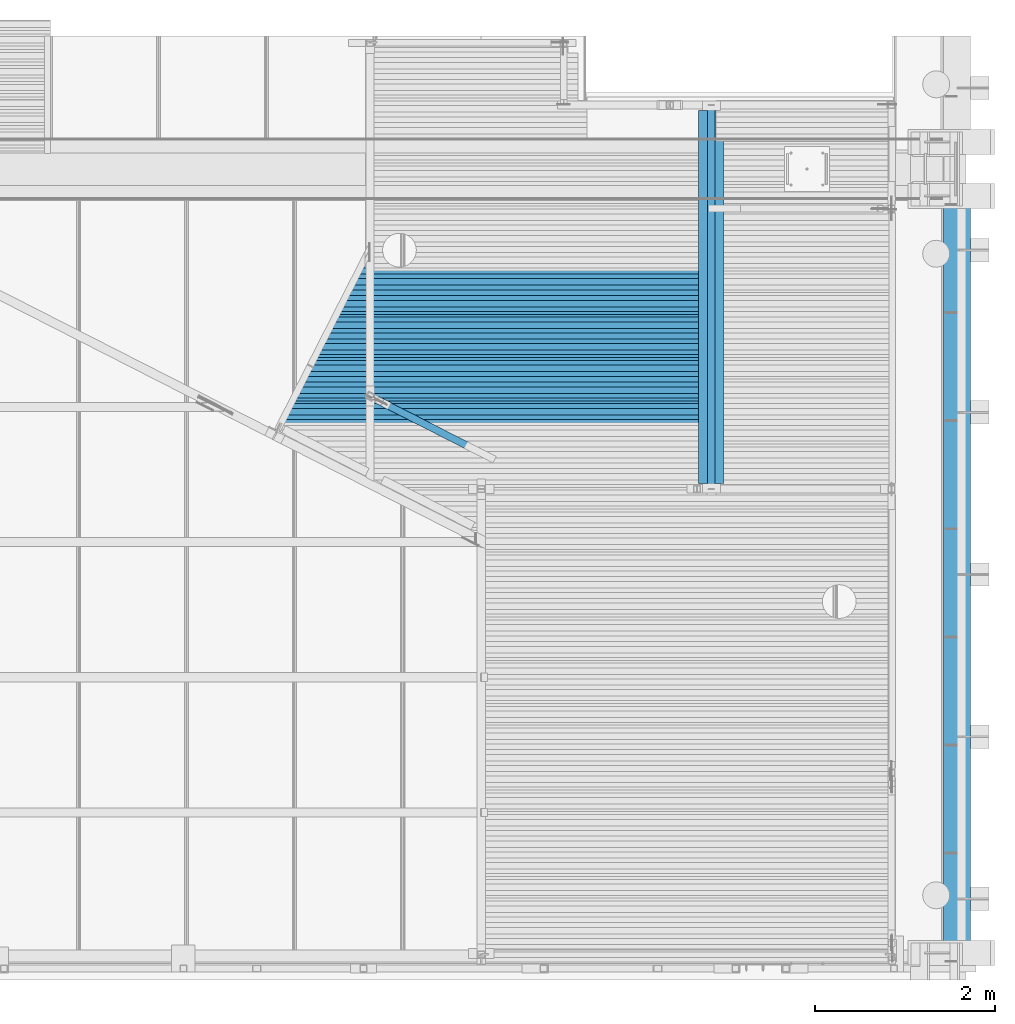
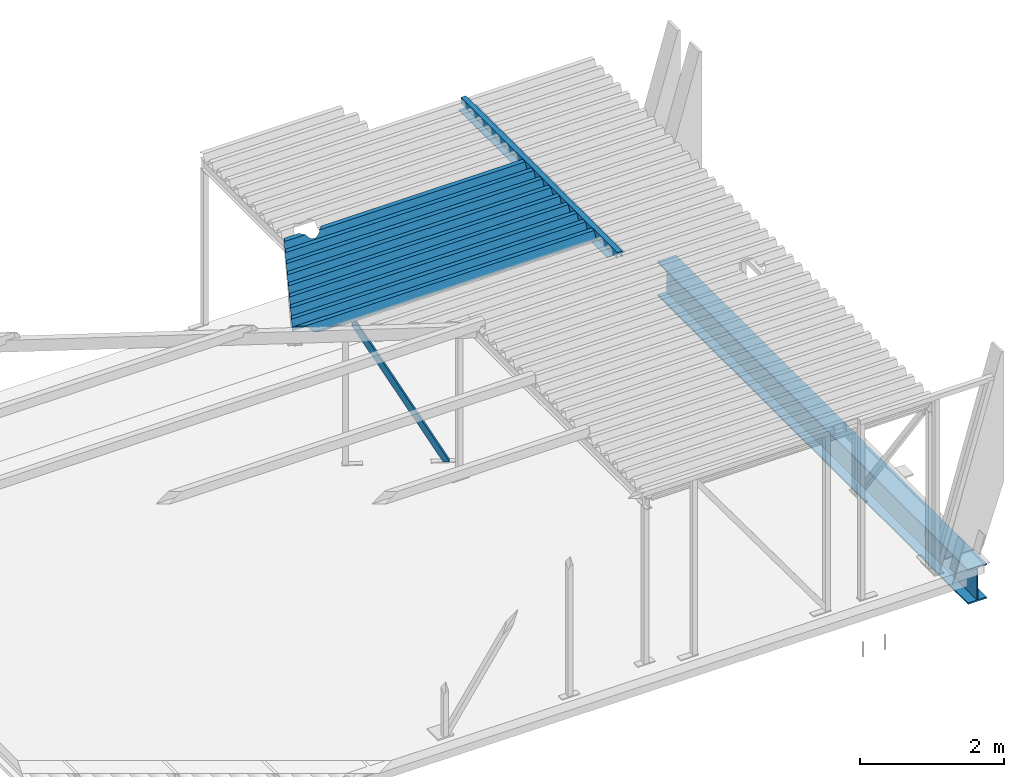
# One storey, part 10 of 30: 6 beams, 1 member.
"""IFC2X3 building model written with IfcOpenShell, lengths in millimetres."""

from ifc_helpers import new_model, entity, si_unit, converted_unit, derived_unit, direction, frame, origin_with_axes, place, context, subcontext, project, spatial, faceted_brep, material, type_object, element, save


model = new_model("IFC2X3")

# Units and contexts
model_context = context("Model", 3, precision=0.01, world=frame((0.0, 4.29681676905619e-09, 0.0)), true_north=direction((4.01073788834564e-13, 1.0)))
plan_context = context("Plan", 3, precision=0.01, world=frame((0.0, 4.29681676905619e-09, 0.0)), true_north=direction((4.01073788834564e-13, 1.0)))
body_context = subcontext(model_context, "Body", "Model", "MODEL_VIEW")
ifc_project = project(units=[converted_unit("PLANEANGLEUNIT", "DEGREE", entity("IfcPositiveLengthMeasure", 0.0174532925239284), si_unit("PLANEANGLEUNIT", "RADIAN"), dimensions=[0, 0, 0, 0, 0, 0, 0]), si_unit("AREAUNIT", "SQUARE_METRE"), si_unit("LENGTHUNIT", "METRE", prefix="MILLI"), si_unit("MASSUNIT", "GRAM", prefix="KILO"), si_unit("POWERUNIT", "WATT"), si_unit("PRESSUREUNIT", "PASCAL"), si_unit("FORCEUNIT", "NEWTON", prefix="KILO"), si_unit("ELECTRICVOLTAGEUNIT", "VOLT"), si_unit("ELECTRICCURRENTUNIT", "AMPERE"), si_unit("THERMODYNAMICTEMPERATUREUNIT", "DEGREE_CELSIUS"), si_unit("TIMEUNIT", "SECOND"), si_unit("VOLUMEUNIT", "CUBIC_METRE"), derived_unit("LINEARVELOCITYUNIT", [(si_unit("LENGTHUNIT", "METRE"), 1), (si_unit("TIMEUNIT", "SECOND"), -1)]), derived_unit("VOLUMETRICFLOWRATEUNIT", [(si_unit("VOLUMEUNIT", "CUBIC_METRE"), 1), (si_unit("TIMEUNIT", "SECOND"), -1)]), derived_unit("THERMALTRANSMITTANCEUNIT", [(si_unit("POWERUNIT", "WATT"), 1), (si_unit("THERMODYNAMICTEMPERATUREUNIT", "KELVIN"), -1), (si_unit("AREAUNIT", "SQUARE_METRE"), -1)]), derived_unit("SOUNDPRESSUREUNIT", [(si_unit("PRESSUREUNIT", "PASCAL"), 1)])], contexts=[model_context, plan_context])

# Site, building, storey
site_placement = place(None, frame((0.0, -4.29681676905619e-09, 0.0), z_axis=(0.0, 0.0, 1.0), x_axis=(1.0, 0.0, 0.0)))
site = spatial("IfcSite", under=ifc_project, at=site_placement, Name="Gardermoen", CompositionType="ELEMENT")
building_placement = place(site_placement, frame((0.0, 4.29681676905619e-09, 0.0), z_axis=(0.0, 0.0, 1.0), x_axis=(1.0, 0.0, 0.0)))
building = spatial("IfcBuilding", under=site, at=building_placement, Name="TI", CompositionType="ELEMENT")
storey_placement = place(building_placement, origin_with_axes())
storey = spatial("IfcBuildingStorey", under=building, at=storey_placement, Name="F", CompositionType="ELEMENT", Elevation=0.0)

# Beams
ifc_material_1 = material(Name="STEEL/S355")
beam_type_1 = type_object("IfcBeamType", Name="HEA600", PredefinedType="NOTDEFINED")
beam_1_placement = place(storey_placement, frame((612014.999766, 697819.995625, 210385.0), z_axis=(0.0, 0.0, 1.0), x_axis=(0.0, -1.0, 0.0)))
element("IfcBeam", 1, at=beam_1_placement, inside=storey, type_object=beam_type_1, material=ifc_material_1, Name="STÅLBJELKE", ObjectType="HEA600", context=body_context, shape_type="Brep", body=[
    faceted_brep([(0.0, 150.0, -295.0), (0.0, 150.0, -270.0), (8640.00934447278, 150.0, -270.0), (8640.00934447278, 150.0, -295.0), (0.0, 6.5, -270.0), (8640.00934447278, 6.5, -270.0), (0.0, 6.5, 270.0), (8640.00934447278, 6.5, 270.0), (0.0, 150.0, 270.0), (8640.00934447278, 150.0, 270.0), (0.0, 150.0, 295.0), (8640.00934447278, 150.0, 295.0), (0.0, -150.0, 295.0), (8640.00934447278, -150.0, 295.0), (0.0, -150.0, 270.0), (8640.00934447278, -150.0, 270.0), (0.0, -6.5, 270.0), (8640.00934447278, -6.5, 270.0), (0.0, -6.5, -270.0), (8640.00934447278, -6.5, -270.0), (0.0, -150.0, -270.0), (8640.00934447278, -150.0, -270.0), (0.0, -150.0, -295.0), (8640.00934447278, -150.0, -295.0)], [[[0, 1, 2, 3]], [[1, 4, 5, 2]], [[4, 6, 7, 5]], [[6, 8, 9, 7]], [[8, 10, 11, 9]], [[10, 12, 13, 11]], [[12, 14, 15, 13]], [[14, 16, 17, 15]], [[16, 18, 19, 17]], [[18, 20, 21, 19]], [[20, 22, 23, 21]], [[22, 0, 3, 23]], [[5, 7, 9, 11, 13, 15, 17, 19, 21, 23, 3, 2]], [[22, 20, 18, 16, 14, 12, 10, 8, 6, 4, 1, 0]]]),
])
ifc_material_2 = material(Name="STEEL/S355J2H")
beam_type_2 = type_object("IfcBeamType", Name="PLANNJA111", PredefinedType="NOTDEFINED")
beam_2_placement = place(storey_placement, frame((605090.830439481, 696747.497611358, 213755.499847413), z_axis=(0.0, 0.0, 1.0), x_axis=(1.0, 0.0, 0.0)))
element("IfcBeam", 2, at=beam_2_placement, inside=storey, type_object=beam_type_2, material=ifc_material_2, Name="STÅLBJELKE", ObjectType="PLANNJA111", context=body_context, shape_type="Brep", body=[
    faceted_brep([(550.565483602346, 359.999999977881, -54.7499999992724), (549.826480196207, 352.496756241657, -54.7499999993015), (549.826480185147, 352.496756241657, -55.7499999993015), (550.565483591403, 359.999999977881, -55.7499999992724), (553.429248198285, 315.917321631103, -28.8564288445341), (553.429248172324, 315.917321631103, -31.2000299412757), (552.288451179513, 327.499999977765, -55.7499999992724), (552.226016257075, 328.133911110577, -54.7499999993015), (564.099084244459, 280.74361571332, 45.6957085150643), (564.099084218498, 280.74361571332, 43.3521074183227), (581.42595129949, 248.327344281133, 55.7500000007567), (581.425951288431, 248.327344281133, 54.7500000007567), (566.973433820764, 275.366088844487, 54.7500000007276), (566.634601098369, 275.999999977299, 55.7500000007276), (604.743988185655, 219.914246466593, 55.7500000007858), (604.743988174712, 219.914246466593, 54.7500000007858), (633.157095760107, 196.596221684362, 40.0573829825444), (633.157095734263, 196.596221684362, 37.7137818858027), (623.363138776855, 204.633911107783, 54.7500000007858), (624.135562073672, 203.999999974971, 55.7500000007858), (665.573374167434, 179.269368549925, 3.33239478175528), (665.573374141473, 179.269368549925, 0.988793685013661), (700.74708438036, 168.599548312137, -19.2827344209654), (700.747084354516, 168.599548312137, -21.6263355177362), (737.326520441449, 164.996796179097, -26.9189178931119), (737.326520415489, 164.996796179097, -29.2625189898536), (773.905955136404, 168.59956389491, -19.282701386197), (773.90595511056, 168.59956389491, -21.6263024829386), (809.079661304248, 179.269399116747, 3.33245958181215), (809.079661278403, 179.269399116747, 0.988858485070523), (841.495933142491, 196.596266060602, 40.0574770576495), (841.495933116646, 196.596266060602, 37.7138759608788), (869.909031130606, 219.914302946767, 55.750000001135), (869.909031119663, 219.914302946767, 54.750000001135), (851.289827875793, 204.633911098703, 54.7500000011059), (850.517405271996, 203.99999996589, 55.7500000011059), (893.227055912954, 248.327410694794, 55.750000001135), (893.227055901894, 248.327410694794, 54.750000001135), (910.553908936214, 280.743689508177, 45.695552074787), (910.553908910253, 280.743689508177, 43.3519509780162), (907.679523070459, 275.36608883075, 54.7500000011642), (908.018355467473, 275.999999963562, 55.7500000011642), (921.223728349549, 315.91739997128, -28.8565949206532), (921.223728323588, 315.91739997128, -31.2001960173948), (924.826480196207, 352.496836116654, -54.7499999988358), (924.826480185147, 352.496836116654, -55.7499999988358), (922.364512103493, 327.49999996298, -55.7499999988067), (922.426946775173, 328.133911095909, -54.7499999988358), (924.087481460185, 359.99999996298, -54.7499999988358), (924.087481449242, 359.99999996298, -55.7499999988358), (4148.81171858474, 87.4999998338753, -55.7499999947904), (4148.81171858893, 35.3660887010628, 54.7500000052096), (199.554923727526, 35.3660888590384, 54.750000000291), (226.118472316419, 87.4999999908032, -55.7499999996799), (4148.81171858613, -35.3660890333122, 54.7500000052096), (163.515085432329, -35.3660888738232, 54.7500000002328), (4148.81171857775, -87.5000001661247, -55.7499999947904), (136.951534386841, -87.5000000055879, -55.7499999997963), (4148.81171857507, -152.500000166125, -55.7499999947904), (103.832386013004, -152.500000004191, -55.7499999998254), (4148.81171857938, -204.633911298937, 54.7500000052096), (77.268837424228, -204.633911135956, 54.7500000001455), (4148.81171857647, -275.366089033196, 54.7500000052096), (41.2289991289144, -275.366088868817, 54.7500000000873), (4148.81171856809, -327.500000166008, -55.7499999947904), (14.6654480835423, -327.500000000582, -55.7499999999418), (3.72529029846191e-09, -359.999999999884, -55.75), (3.72529029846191e-09, -359.999999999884, -54.75), (-1.73458829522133e-08, -356.282567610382, -54.7499999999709), (-1.73458829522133e-08, -356.282567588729, -55.7499999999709), (4148.81171856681, -360.000000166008, -55.7499999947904), (4148.81171856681, -360.000000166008, -54.7499999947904), (4148.81171856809, -328.133911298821, -54.7499999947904), (14.3424542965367, -328.133911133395, -54.7499999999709), (4148.81171857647, -276.000000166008, 55.7500000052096), (40.9060053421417, -276.00000000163, 55.7500000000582), (4148.81171857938, -204.000000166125, 55.7500000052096), (77.5918312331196, -204.000000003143, 55.7500000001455), (4148.81171857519, -151.866089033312, -54.7499999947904), (104.155379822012, -151.866088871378, -54.7499999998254), (4148.81171857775, -88.1339112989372, -54.7499999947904), (136.628540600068, -88.133911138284, -54.7499999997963), (4148.81171858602, -36.0000001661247, 55.7500000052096), (163.192091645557, -36.0000000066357, 55.7500000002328), (4148.81171858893, 35.9999998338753, 55.7500000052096), (199.877917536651, 35.9999999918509, 55.750000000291), (4148.81171858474, 88.1339109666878, -54.7499999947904), (226.441466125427, 88.1339111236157, -54.7499999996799), (4148.8117185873, 151.866088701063, -54.7499999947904), (258.914626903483, 151.86608885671, -54.7499999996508), (348.404558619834, 327.49999998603, -55.7499999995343), (321.841010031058, 275.366088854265, 54.7500000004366), (285.80117173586, 204.633911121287, 54.7500000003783), (259.237620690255, 152.499999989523, -55.7499999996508), (285.478177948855, 203.999999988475, 55.7500000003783), (322.164003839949, 275.999999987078, 55.7500000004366), (348.727552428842, 328.133911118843, -54.7499999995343), (364.964132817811, 359.999999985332, -54.7499999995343), (364.964132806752, 359.999999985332, -55.7499999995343), (4148.8117185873, 152.499999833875, -55.7499999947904), (4148.81171859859, 275.999999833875, 55.7500000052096), (4148.81171859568, 203.999999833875, 55.7500000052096), (4148.81171859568, 204.633910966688, 54.7500000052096), (4148.81171859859, 275.366088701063, 54.7500000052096), (4148.81171859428, 327.499999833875, -55.7499999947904), (4148.81171859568, 359.999999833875, -55.7499999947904), (4148.81171859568, 359.999999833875, -54.7499999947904), (4148.8117185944, 328.133910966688, -54.7499999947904)], [[[0, 1, 2, 3]], [[4, 5, 6, 2, 1, 7]], [[8, 9, 5, 4]], [[10, 11, 12, 9, 8, 13]], [[14, 15, 11, 10]], [[16, 17, 18, 15, 14, 19]], [[20, 21, 17, 16]], [[22, 23, 21, 20]], [[24, 25, 23, 22]], [[26, 27, 25, 24]], [[28, 29, 27, 26]], [[30, 31, 29, 28]], [[32, 33, 34, 31, 30, 35]], [[36, 37, 33, 32]], [[38, 39, 40, 37, 36, 41]], [[42, 43, 39, 38]], [[44, 45, 46, 43, 42, 47]], [[48, 49, 45, 44]], [[50, 51, 52, 53]], [[51, 54, 55, 52]], [[54, 56, 57, 55]], [[56, 58, 59, 57]], [[58, 60, 61, 59]], [[60, 62, 63, 61]], [[62, 64, 65, 63]], [[66, 67, 68, 69]], [[64, 70, 66, 69, 65]], [[67, 66, 70, 71]], [[67, 71, 72, 73, 68]], [[72, 74, 75, 73]], [[74, 76, 77, 75]], [[76, 78, 79, 77]], [[78, 80, 81, 79]], [[80, 82, 83, 81]], [[82, 84, 85, 83]], [[84, 86, 87, 85]], [[86, 88, 89, 87]], [[90, 91, 92, 93, 53, 52, 55, 57, 59, 61, 63, 65, 69, 68, 73, 75, 77, 79, 81, 83, 85, 87, 89, 94, 95, 96, 97, 98]], [[99, 50, 53, 93]], [[100, 101, 88, 86, 84, 82, 80, 78, 76, 74, 72, 71, 70, 64, 62, 60, 58, 56, 54, 51, 50, 99, 102, 103, 104, 105, 106, 107]], [[38, 41, 100, 107, 47, 42]], [[32, 35, 101, 100, 41, 36]], [[28, 26, 24, 22, 20, 16, 19, 94, 89, 88, 101, 35, 30]], [[10, 13, 95, 94, 19, 14]], [[4, 7, 96, 95, 13, 8]], [[0, 97, 96, 7, 1]], [[98, 97, 0, 3]], [[90, 98, 3, 2, 6]], [[91, 90, 6, 5, 9, 12]], [[92, 91, 12, 11, 15, 18]], [[102, 99, 93, 92, 18, 17, 21, 23, 25, 27, 29, 31, 34]], [[103, 102, 34, 33, 37, 40]], [[104, 103, 40, 39, 43, 46]], [[105, 104, 46, 45, 49]], [[106, 105, 49, 48]], [[107, 106, 48, 44, 47]]]),
])
beam_3_placement = place(storey_placement, frame((604690.830439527, 696267.497611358, 213755.499847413), z_axis=(0.0, 0.0, 1.0), x_axis=(1.0, 0.0, 0.0)))
element("IfcBeam", 3, at=beam_3_placement, inside=storey, type_object=beam_type_2, material=ifc_material_2, Name="STÅLBJELKE", ObjectType="PLANNJA111", context=body_context, shape_type="Brep", body=[
    faceted_brep([(4548.8116240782, 275.999999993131, 55.7500000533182), (4548.81162407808, 203.999999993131, 55.7500000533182), (4548.81162407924, 151.866088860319, -54.7499999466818), (4548.81162407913, 88.133911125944, -54.7499999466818), (4548.81162407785, 35.9999999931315, 55.7500000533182), (4548.81162407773, -36.0000000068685, 55.7500000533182), (4548.81162407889, -88.133911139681, -54.7499999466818), (4548.81162407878, -151.866088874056, -54.7499999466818), (4548.8116240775, -204.000000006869, 55.7500000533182), (4548.81162407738, -276.000000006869, 55.7500000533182), (4548.81162407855, -328.133911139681, -54.7499999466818), (4548.81162407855, -360.000000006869, -54.7499999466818), (4548.81162407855, -360.000000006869, -55.7499999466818), (4548.81162407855, -327.500000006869, -55.7499999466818), (4548.81162407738, -275.366088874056, 54.7500000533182), (4548.8116240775, -204.633911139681, 54.7500000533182), (4548.81162407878, -152.500000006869, -55.7499999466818), (4548.81162407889, -87.5000000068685, -55.7499999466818), (4548.81162407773, -35.366088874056, 54.7500000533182), (4548.81162407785, 35.366088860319, 54.7500000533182), (4548.81162407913, 87.4999999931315, -55.7499999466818), (4548.81162407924, 152.499999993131, -55.7499999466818), (4548.81162407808, 204.633911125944, 54.7500000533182), (4548.8116240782, 275.366088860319, 54.7500000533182), (4548.81162407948, 327.499999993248, -55.7499999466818), (4548.81162407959, 359.999999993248, -55.7499999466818), (4548.81162407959, 359.999999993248, -54.7499999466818), (4548.81162407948, 328.13391112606, -54.7499999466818), (520.391822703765, 359.999999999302, -54.7499999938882), (504.155241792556, 328.133911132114, -54.7499999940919), (477.591692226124, 275.999999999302, 55.750000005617), (440.905865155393, 203.999999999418, 55.7500000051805), (414.342313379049, 151.866088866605, -54.7499999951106), (381.869151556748, 88.1339111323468, -54.749999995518), (355.305601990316, 35.9999999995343, 55.7500000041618), (318.619774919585, -36.0000000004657, 55.7500000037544), (292.056223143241, -88.1339111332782, -54.7499999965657), (259.58306132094, -151.866088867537, -54.7499999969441), (233.019511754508, -204.000000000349, 55.7500000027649), (196.333684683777, -276.000000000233, 55.7500000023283), (169.770132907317, -328.133911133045, -54.7499999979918), (153.533551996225, -360.000000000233, -54.7499999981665), (153.533551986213, -360.000000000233, -55.7499999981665), (170.093126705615, -327.500000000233, -55.7499999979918), (196.656678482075, -275.36608886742, 54.7500000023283), (232.696517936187, -204.633911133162, 54.7500000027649), (259.260067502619, -152.500000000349, -55.7499999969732), (292.379216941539, -87.5000000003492, -55.7499999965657), (318.942768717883, -35.3660888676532, 54.7500000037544), (354.982608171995, 35.3660888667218, 54.7500000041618), (381.546157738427, 87.4999999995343, -55.749999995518), (414.665307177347, 152.499999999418, -55.7499999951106), (441.228858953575, 204.63391113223, 54.7500000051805), (477.268698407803, 275.366088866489, 54.7500000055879), (503.832247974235, 327.499999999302, -55.7499999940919), (520.391822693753, 359.999999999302, -55.7499999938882)], [[[0, 1, 2, 3, 4, 5, 6, 7, 8, 9, 10, 11, 12, 13, 14, 15, 16, 17, 18, 19, 20, 21, 22, 23, 24, 25, 26, 27]], [[27, 26, 28, 29]], [[0, 27, 29, 30]], [[1, 0, 30, 31]], [[2, 1, 31, 32]], [[3, 2, 32, 33]], [[4, 3, 33, 34]], [[5, 4, 34, 35]], [[6, 5, 35, 36]], [[7, 6, 36, 37]], [[8, 7, 37, 38]], [[9, 8, 38, 39]], [[10, 9, 39, 40]], [[11, 10, 40, 41]], [[12, 11, 41, 42]], [[13, 12, 42, 43]], [[14, 13, 43, 44]], [[15, 14, 44, 45]], [[16, 15, 45, 46]], [[17, 16, 46, 47]], [[18, 17, 47, 48]], [[19, 18, 48, 49]], [[20, 19, 49, 50]], [[21, 20, 50, 51]], [[22, 21, 51, 52]], [[23, 22, 52, 53]], [[24, 23, 53, 54]], [[25, 24, 54, 55]], [[26, 25, 55, 28]], [[54, 53, 52, 51, 50, 49, 48, 47, 46, 45, 44, 43, 42, 41, 40, 39, 38, 37, 36, 35, 34, 33, 32, 31, 30, 29, 28, 55]]]),
])
beam_4_placement = place(storey_placement, frame((604590.830439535, 695787.497611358, 213755.499847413), z_axis=(0.0, 0.0, 1.0), x_axis=(1.0, 0.0, 0.0)))
element("IfcBeam", 4, at=beam_4_placement, inside=storey, type_object=beam_type_2, material=ifc_material_2, Name="STÅLBJELKE", ObjectType="PLANNJA111", context=body_context, shape_type="Brep", body=[
    faceted_brep([(4648.81153176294, 276.000000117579, 55.7500000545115), (4648.8115317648, 204.000000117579, 55.7500000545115), (4648.81153176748, 151.866088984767, -54.7499999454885), (4648.81153176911, 88.133911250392, -54.7499999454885), (4648.81153176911, 36.0000001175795, 55.7500000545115), (4648.81153177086, -35.9999998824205, 55.7500000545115), (4648.81153177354, -88.133911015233, -54.7499999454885), (4648.81153177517, -151.866088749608, -54.7499999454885), (4648.81153177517, -203.999999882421, 55.7500000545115), (4648.81153177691, -275.999999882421, 55.7500000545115), (4648.81153177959, -328.133911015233, -54.7499999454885), (4648.81153178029, -359.999999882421, -54.7499999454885), (4648.81153178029, -359.999999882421, -55.7499999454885), (4648.81153177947, -327.499999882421, -55.7499999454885), (4648.81153177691, -275.366088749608, 54.7500000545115), (4648.81153177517, -204.633911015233, 54.7500000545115), (4648.81153177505, -152.499999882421, -55.7499999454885), (4648.81153177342, -87.4999998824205, -55.7499999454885), (4648.81153177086, -35.366088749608, 54.7500000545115), (4648.81153176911, 35.366088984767, 54.7500000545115), (4648.811531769, 87.5000001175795, -55.7499999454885), (4648.81153176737, 152.500000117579, -55.7499999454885), (4648.8115317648, 204.633911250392, 54.7500000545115), (4648.81153176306, 275.366088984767, 54.7500000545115), (4648.81153176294, 327.500000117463, -55.7499999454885), (4648.81153176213, 360.000000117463, -55.7499999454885), (4648.81153176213, 360.000000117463, -54.7499999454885), (4648.81153176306, 328.133911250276, -54.7499999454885), (375.819537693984, 360.00000000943, -54.7499999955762), (359.582956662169, 328.133911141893, -54.7499999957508), (333.019406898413, 276.000000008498, 55.750000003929), (296.333579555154, 204.000000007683, 55.7500000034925), (269.770027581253, 151.866088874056, -54.7499999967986), (237.296865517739, 88.1339111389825, -54.749999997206), (210.733315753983, 36.0000000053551, 55.7500000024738), (174.047488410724, -35.9999999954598, 55.7500000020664), (147.48393643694, -88.1339111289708, -54.7499999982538), (115.01077437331, -151.866088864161, -54.7499999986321), (88.4472246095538, -203.999999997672, 55.7500000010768), (51.7613972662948, -275.999999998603, 55.7500000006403), (25.1978452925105, -328.133911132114, -54.7499999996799), (8.96126426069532, -359.999999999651, -54.7499999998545), (8.9612642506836, -359.999999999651, -55.7499999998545), (25.5208390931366, -327.499999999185, -55.7499999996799), (52.0843910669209, -275.366088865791, 54.7500000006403), (88.1242307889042, -204.633911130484, 54.7500000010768), (114.68778055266, -152.49999999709, -55.7499999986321), (147.806930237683, -87.4999999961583, -55.7499999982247), (174.37048221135, -35.3660888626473, 54.7500000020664), (210.410321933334, 35.366088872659, 54.7500000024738), (236.97387169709, 87.5000000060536, -55.749999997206), (270.093021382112, 152.500000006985, -55.7499999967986), (296.65657335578, 204.633911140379, 54.7500000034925), (332.696413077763, 275.366088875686, 54.750000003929), (359.259962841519, 327.50000000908, -55.7499999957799), (375.819537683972, 360.00000000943, -55.7499999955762)], [[[0, 1, 2, 3, 4, 5, 6, 7, 8, 9, 10, 11, 12, 13, 14, 15, 16, 17, 18, 19, 20, 21, 22, 23, 24, 25, 26, 27]], [[27, 26, 28, 29]], [[0, 27, 29, 30]], [[1, 0, 30, 31]], [[2, 1, 31, 32]], [[3, 2, 32, 33]], [[4, 3, 33, 34]], [[5, 4, 34, 35]], [[6, 5, 35, 36]], [[7, 6, 36, 37]], [[8, 7, 37, 38]], [[9, 8, 38, 39]], [[10, 9, 39, 40]], [[11, 10, 40, 41]], [[12, 11, 41, 42]], [[13, 12, 42, 43]], [[14, 13, 43, 44]], [[15, 14, 44, 45]], [[16, 15, 45, 46]], [[17, 16, 46, 47]], [[18, 17, 47, 48]], [[19, 18, 48, 49]], [[20, 19, 49, 50]], [[21, 20, 50, 51]], [[22, 21, 51, 52]], [[23, 22, 52, 53]], [[24, 23, 53, 54]], [[25, 24, 54, 55]], [[26, 25, 55, 28]], [[54, 53, 52, 51, 50, 49, 48, 47, 46, 45, 44, 43, 42, 41, 40, 39, 38, 37, 36, 35, 34, 33, 32, 31, 30, 29, 28, 55]]]),
])
beam_5_placement = place(storey_placement, frame((604390.830439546, 695307.497611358, 213755.499847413), z_axis=(0.0, 0.0, 1.0), x_axis=(1.0, 0.0, 0.0)))
element("IfcBeam", 5, at=beam_5_placement, inside=storey, type_object=beam_type_2, material=ifc_material_2, Name="STÅLBJELKE", ObjectType="PLANNJA111", context=body_context, shape_type="Brep", body=[
    faceted_brep([(4848.81144206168, -151.866089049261, -54.7499999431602), (4848.81144206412, -88.1339113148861, -54.7499999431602), (102.911639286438, -88.1339111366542, -54.7499999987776), (70.4384767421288, -151.866088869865, -54.749999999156), (4848.8114420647, -36.0000001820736, 55.7500000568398), (129.475191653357, -36.0000000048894, 55.7500000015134), (4848.8114420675, 35.9999998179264, 55.7500000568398), (166.161019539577, 35.99999999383, 55.75000000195), (4848.81144207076, 88.1339109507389, -54.7499999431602), (192.724569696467, 88.1339111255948, -54.7499999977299), (4848.8114420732, 151.866088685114, -54.7499999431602), (225.19773224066, 151.866088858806, -54.7499999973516), (4848.81144207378, 203.999999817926, 55.7500000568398), (251.761284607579, 203.99999999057, 55.7500000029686), (4848.81144207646, 275.999999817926, 55.7500000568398), (288.447112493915, 275.999999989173, 55.7500000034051), (4848.81144207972, 328.133910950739, -54.7499999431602), (315.010662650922, 328.133911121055, -54.7499999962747), (4848.81144206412, -87.5000001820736, -55.7499999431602), (4848.81144206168, -152.500000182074, -55.7499999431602), (70.1154829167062, -152.500000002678, -55.749999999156), (103.234633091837, -87.5000000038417, -55.7499999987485), (4848.81144206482, -35.3660890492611, 54.7500000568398), (129.798185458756, -35.3660888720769, 54.7500000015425), (4848.8114420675, 35.3660886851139, 54.7500000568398), (165.838025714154, 35.3660888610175, 54.75000000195), (4848.81144207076, 87.4999998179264, -55.7499999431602), (192.401575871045, 87.4999999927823, -55.7499999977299), (4848.8114420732, 152.499999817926, -55.7499999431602), (225.520726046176, 152.499999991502, -55.7499999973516), (4848.8114420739, 204.633910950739, 54.7500000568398), (252.084278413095, 204.633911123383, 54.7500000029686), (4848.81144207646, 275.366088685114, 54.7500000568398), (288.124118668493, 275.366088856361, 54.7500000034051), (4848.81144207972, 327.499999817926, -55.7499999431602), (314.687668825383, 327.499999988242, -55.7499999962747), (4848.81144208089, 359.999999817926, -55.7499999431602), (331.247243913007, 359.999999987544, -55.7499999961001), (4848.81144208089, 359.999999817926, -54.7499999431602), (331.247243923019, 359.999999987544, -54.7499999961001), (4848.81144205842, -204.000000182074, 55.7500000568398), (4848.81144205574, -276.000000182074, 55.7500000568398), (4848.81144205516, -328.133911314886, -54.7499999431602), (4848.81144205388, -360.000000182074, -54.7499999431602), (4848.81144205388, -360.000000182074, -55.7499999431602), (4848.81144205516, -327.500000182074, -55.7499999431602), (4848.81144205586, -275.366089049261, 54.7500000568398), (4848.81144205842, -204.633911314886, 54.7500000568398), (382.34904456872, -360.000000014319, -54.7499999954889), (382.349044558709, -360.000000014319, -55.7499999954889), (318.564206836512, -327.500000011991, -55.7499999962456), (216.245652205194, -275.36608887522, 54.7500000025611), (77.4259451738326, -204.633911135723, 54.7500000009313), (50.5336158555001, -190.931584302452, 25.707346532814), (50.5336158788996, -190.931584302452, 28.0509476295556), (76.181824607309, -204.000000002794, 55.7500000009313), (217.489772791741, -276.000000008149, 55.7500000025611), (319.808327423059, -328.133911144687, -54.7499999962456)], [[[0, 1, 2, 3]], [[1, 4, 5, 2]], [[4, 6, 7, 5]], [[6, 8, 9, 7]], [[8, 10, 11, 9]], [[10, 12, 13, 11]], [[12, 14, 15, 13]], [[14, 16, 17, 15]], [[18, 19, 20, 21]], [[22, 18, 21, 23]], [[24, 22, 23, 25]], [[26, 24, 25, 27]], [[28, 26, 27, 29]], [[30, 28, 29, 31]], [[32, 30, 31, 33]], [[34, 32, 33, 35]], [[36, 34, 35, 37]], [[38, 36, 37, 39]], [[16, 38, 39, 17]], [[14, 12, 10, 8, 6, 4, 1, 0, 40, 41, 42, 43, 44, 45, 46, 47, 19, 18, 22, 24, 26, 28, 30, 32, 34, 36, 38, 16]], [[44, 43, 48, 49]], [[45, 44, 49, 50]], [[46, 45, 50, 51]], [[47, 46, 51, 52]], [[20, 19, 47, 52, 53]], [[3, 2, 5, 7, 9, 11, 13, 15, 17, 39, 37, 35, 33, 31, 29, 27, 25, 23, 21, 20, 53, 54]], [[40, 0, 3, 54, 55]], [[41, 40, 55, 56]], [[42, 41, 56, 57]], [[43, 42, 57, 48]], [[56, 55, 54, 53, 52, 51, 50, 49, 48, 57]]]),
])
beam_type_3 = type_object("IfcBeamType", Name="HSQ110*6-10*68-10*280", PredefinedType="NOTDEFINED")
beam_6_placement = place(storey_placement, frame((609289.642571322, 698755.504039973, 213749.999809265), z_axis=(0.0, 0.0, 1.0), x_axis=(0.0, -1.0, 0.0)))
element("IfcBeam", 6, at=beam_6_placement, inside=storey, type_object=beam_type_3, material=ifc_material_2, Name="STÅLBJELKE", ObjectType="HSQ110*6-10*68-10*280", context=body_context, shape_type="Brep", body=[
    faceted_brep([(4350.93210937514, 34.0, -42.0026804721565), (4244.81999999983, 34.0, -42.0026804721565), (4244.81999999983, 40.0, -42.0026804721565), (4350.93210937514, 40.0, -42.0026804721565), (4244.81999999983, -40.0, -50.0), (4244.81999999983, -140.0, -50.0), (4244.81999999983, -140.0, -60.0), (4244.81999999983, 140.0, -60.0), (4244.81999999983, 140.0, -50.0), (4244.81999999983, 40.0, -50.0), (4244.81999999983, 34.0, -50.0), (4244.81999999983, -34.0, -50.0), (4244.81999999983, -34.0, -42.0026804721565), (4244.81999999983, -40.0, -42.0026804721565), (4350.93210937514, -40.0, -42.0026804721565), (4350.93210937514, -34.0, -42.0026804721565), (0.0, -34.0, 50.0), (0.0, 34.0, 50.0), (4350.93210937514, 34.0, 50.0), (4350.93210937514, -34.0, 50.0), (106.0, -34.0, -50.0), (106.0, -34.0, -42.0026804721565), (0.0, -34.0, -42.0026804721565), (106.0, 34.0, -50.0), (0.0, 34.0, -42.0026804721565), (106.0, 34.0, -42.0026804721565), (0.0, 40.0, -42.0026804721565), (106.0, 40.0, -42.0026804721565), (106.0, -40.0, -42.0026804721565), (106.0, 40.0, -50.0), (106.0, 140.0, -50.0), (106.0, 140.0, -60.0), (106.0, -140.0, -60.0), (106.0, -140.0, -50.0), (106.0, -40.0, -50.0), (0.0, -40.0, -42.0026804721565), (-1.62981450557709e-09, -40.0, 60.0), (0.0, 40.0, 60.0), (4350.93210937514, -40.0, 60.0), (4350.93210937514, 40.0, 60.0)], [[[0, 1, 2, 3]], [[4, 5, 6, 7, 8, 9, 2, 1, 10, 11, 12, 13]], [[14, 13, 12, 15]], [[16, 17, 18, 19]], [[11, 20, 21, 22, 16, 19, 15, 12]], [[23, 20, 11, 10]], [[18, 17, 24, 25, 23, 10, 1, 0]], [[24, 26, 27, 25]], [[28, 21, 20, 23, 25, 27, 29, 30, 31, 32, 33, 34]], [[35, 22, 21, 28]], [[36, 37, 26, 24, 17, 16, 22, 35]], [[37, 36, 38, 39]], [[19, 18, 0, 3, 39, 38, 14, 15]], [[9, 29, 27, 26, 37, 39, 3, 2]], [[30, 29, 9, 8]], [[31, 30, 8, 7]], [[32, 31, 7, 6]], [[33, 32, 6, 5]], [[34, 33, 5, 4]], [[38, 36, 35, 28, 34, 4, 13, 14]]]),
])

# Member
member_type = type_object("IfcMemberType", Name="RHS80*8", PredefinedType="NOTDEFINED")
member_placement = place(storey_placement, frame((606782.219013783, 694826.407131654, 210836.123635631), z_axis=(0.784005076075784, -0.399467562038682, 0.475143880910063), x_axis=(-0.423356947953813, 0.215709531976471, 0.879908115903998)))
element("IfcMember", 7, at=member_placement, inside=storey, type_object=member_type, material=ifc_material_2, Name="STÅLDIAGONAL", ObjectType="RHS80*8", context=body_context, shape_type="Brep", body=[
    faceted_brep([(2767.96849741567, 4.99999986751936, 39.9999999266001), (2667.96849744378, 4.9999998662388, 39.9999999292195), (2667.96849744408, 4.99999986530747, 31.9999999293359), (2767.96849741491, 4.99999986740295, 31.9999999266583), (2667.96849744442, -5.00000013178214, 39.9999999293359), (2667.96849744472, -5.00000013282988, 31.9999999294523), (2767.96849741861, -5.00000014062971, 39.9999999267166), (2767.96849741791, -5.00000014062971, 31.9999999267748), (2767.96849740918, 4.99999986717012, -32.0000000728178), (2667.96849744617, 4.99999985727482, -32.0000000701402), (2667.9684974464, 4.99999985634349, -40.000000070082), (2767.96849740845, 4.99999986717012, -40.0000000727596), (2667.96849744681, -5.00000014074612, -32.0000000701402), (2667.96849744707, -5.00000014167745, -40.000000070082), (2767.96849741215, -5.00000014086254, -32.0000000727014), (2767.96849741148, -5.00000014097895, -40.0000000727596), (49.632182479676, 31.9999999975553, 31.9999999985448), (84.1917095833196, 31.9999999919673, -32.0000000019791), (2767.96849740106, 31.9999998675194, -32.000000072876), (2767.96849740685, 31.9999998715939, 31.9999999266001), (2767.968497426, -32.000000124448, 31.999999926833), (49.6321824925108, -31.9999999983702, 31.999999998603), (84.1917095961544, -32.0000000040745, -32.0000000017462), (2767.9684974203, -32.0000001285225, -32.0000000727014), (88.5116504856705, -40.0000000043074, -40.0000000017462), (45.3122416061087, -39.9999999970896, 39.9999999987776), (45.3122415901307, 39.9999999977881, 39.9999999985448), (88.5116504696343, 39.9999999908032, -40.0000000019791), (2767.96849740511, 39.9999998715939, 39.9999999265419), (2767.96849739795, 39.9999998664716, -40.000000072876), (2767.9684974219, -40.0000001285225, -40.0000000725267), (2767.96849742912, -40.0000001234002, 39.9999999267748)], [[[0, 1, 2, 3]], [[4, 5, 2, 1]], [[6, 7, 5, 4]], [[8, 9, 10, 11]], [[12, 13, 10, 9]], [[14, 15, 13, 12]], [[16, 17, 18, 19]], [[20, 21, 16, 19, 3, 2, 5, 7]], [[22, 21, 20, 23]], [[9, 8, 18, 17, 22, 23, 14, 12]], [[24, 25, 26, 27], [16, 21, 22, 17]], [[27, 26, 28, 29]], [[19, 18, 8, 11, 29, 28, 0, 3]], [[30, 24, 27, 29, 11, 10, 13, 15]], [[25, 24, 30, 31]], [[1, 0, 28, 26, 25, 31, 6, 4]], [[31, 30, 15, 14, 23, 20, 7, 6]]]),
])

save(model, "model.ifc")
